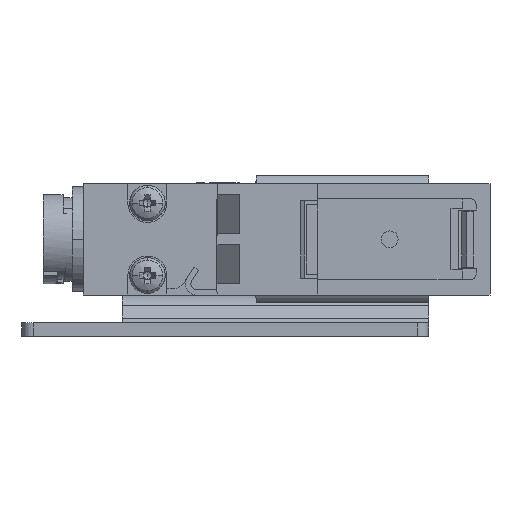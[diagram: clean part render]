
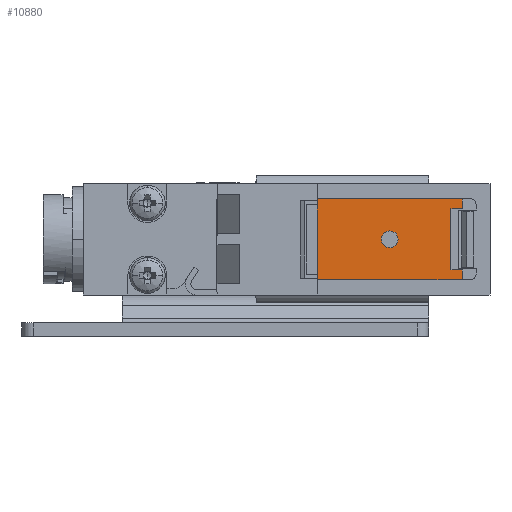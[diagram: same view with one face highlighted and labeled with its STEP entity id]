
A CAD part, left-side view. The second image highlights one B-rep face of the part: STEP entity #10880.
In plain terms, the highlighted planar face has unit normal (-1, 0, 0) as drawn and (0, 0, 1) by its records, which use the part's own axes.
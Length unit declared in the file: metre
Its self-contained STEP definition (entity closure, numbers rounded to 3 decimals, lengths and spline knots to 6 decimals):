
#20 = DIRECTION ( 'NONE',  ( 0., -1., 0. ) ) ;
#1018 = CIRCLE ( 'NONE', #4142, 0.00075 ) ;
#1143 = DIRECTION ( 'NONE',  ( 0., 1., 0. ) ) ;
#1285 = DIRECTION ( 'NONE',  ( -1., 0., 0. ) ) ;
#1386 = FACE_BOUND ( 'NONE', #17132, .T. ) ;
#1657 = CARTESIAN_POINT ( 'NONE',  ( 0., 0.0101, 0.006 ) ) ;
#2140 = CARTESIAN_POINT ( 'NONE',  ( -0.003625, 0.0166, 0.006 ) ) ;
#2413 = CARTESIAN_POINT ( 'NONE',  ( -0.00275, 0.0041, 0.006 ) ) ;
#2504 = VERTEX_POINT ( 'NONE', #6080 ) ;
#2660 = VECTOR ( 'NONE', #1143, 1. ) ;
#2680 = ORIENTED_EDGE ( 'NONE', *, *, #4165, .F. ) ;
#3036 = DIRECTION ( 'NONE',  ( 1., 0., 0. ) ) ;
#3113 = CARTESIAN_POINT ( 'NONE',  ( 0.003188, 0.0036, 0.006 ) ) ;
#3566 = VECTOR ( 'NONE', #6602, 1. ) ;
#3714 = VECTOR ( 'NONE', #15782, 1. ) ;
#3739 = PLANE ( 'NONE',  #13946 ) ;
#3769 = CIRCLE ( 'NONE', #5936, 0.00075 ) ;
#3801 = EDGE_CURVE ( 'NONE', #12351, #11717, #11948, .T. ) ;
#3903 = CARTESIAN_POINT ( 'NONE',  ( -0.00275, 0.0046, 0.006 ) ) ;
#4141 = VECTOR ( 'NONE', #20, 1. ) ;
#4142 = AXIS2_PLACEMENT_3D ( 'NONE', #1657, #11307, #3036 ) ;
#4143 = CARTESIAN_POINT ( 'NONE',  ( 0.003625, 0.0036, 0.006 ) ) ;
#4165 = EDGE_CURVE ( 'NONE', #10639, #5469, #11312, .T. ) ;
#4192 = CARTESIAN_POINT ( 'NONE',  ( 0., 0.0101, 0.006 ) ) ;
#4528 = EDGE_CURVE ( 'NONE', #5469, #7551, #13044, .T. ) ;
#4544 = CARTESIAN_POINT ( 'NONE',  ( -0.003625, 0.0036, 0.006 ) ) ;
#4800 = VERTEX_POINT ( 'NONE', #3903 ) ;
#4908 = EDGE_CURVE ( 'NONE', #7551, #11717, #15203, .T. ) ;
#5287 = CARTESIAN_POINT ( 'NONE',  ( 0.00275, 0.0041, 0.006 ) ) ;
#5306 = ORIENTED_EDGE ( 'NONE', *, *, #8342, .F. ) ;
#5469 = VERTEX_POINT ( 'NONE', #2140 ) ;
#5606 = DIRECTION ( 'NONE',  ( 1., 0., 0. ) ) ;
#5775 = ORIENTED_EDGE ( 'NONE', *, *, #16051, .T. ) ;
#5936 = AXIS2_PLACEMENT_3D ( 'NONE', #4192, #13886, #5606 ) ;
#6080 = CARTESIAN_POINT ( 'NONE',  ( 0.00275, 0.0046, 0.006 ) ) ;
#6117 = CARTESIAN_POINT ( 'NONE',  ( 0., 0.0166, 0.006 ) ) ;
#6488 = ORIENTED_EDGE ( 'NONE', *, *, #15534, .T. ) ;
#6561 = ORIENTED_EDGE ( 'NONE', *, *, #10660, .T. ) ;
#6602 = DIRECTION ( 'NONE',  ( 0., 1., 0. ) ) ;
#6788 = VERTEX_POINT ( 'NONE', #10137 ) ;
#6947 = ORIENTED_EDGE ( 'NONE', *, *, #3801, .T. ) ;
#7551 = VERTEX_POINT ( 'NONE', #16341 ) ;
#7706 = LINE ( 'NONE', #2413, #3566 ) ;
#7895 = CARTESIAN_POINT ( 'NONE',  ( -0.00275, 0.0036, 0.006 ) ) ;
#7936 = DIRECTION ( 'NONE',  ( 0., 0., -1. ) ) ;
#8164 = VECTOR ( 'NONE', #17735, 1. ) ;
#8262 = CARTESIAN_POINT ( 'NONE',  ( 0., 0.0046, 0.006 ) ) ;
#8342 = EDGE_CURVE ( 'NONE', #13644, #6788, #1018, .T. ) ;
#8597 = LINE ( 'NONE', #5287, #8164 ) ;
#8685 = DIRECTION ( 'NONE',  ( 1., 0., 0. ) ) ;
#9272 = CARTESIAN_POINT ( 'NONE',  ( 0.003625, 0.0036, 0.006 ) ) ;
#10126 = DIRECTION ( 'NONE',  ( 1., 0., 0. ) ) ;
#10137 = CARTESIAN_POINT ( 'NONE',  ( -0.00075, 0.0101, 0.006 ) ) ;
#10461 = EDGE_CURVE ( 'NONE', #2504, #4800, #17628, .T. ) ;
#10495 = EDGE_CURVE ( 'NONE', #6788, #13644, #3769, .T. ) ;
#10639 = VERTEX_POINT ( 'NONE', #4544 ) ;
#10660 = EDGE_CURVE ( 'NONE', #10639, #15411, #11760, .T. ) ;
#10880 = ADVANCED_FACE ( 'NONE', ( #1386, #14806 ), #3739, .F. ) ;
#11158 = EDGE_LOOP ( 'NONE', ( #5775, #17473, #6488, #6947, #16234, #15578, #2680, #6561 ) ) ;
#11307 = DIRECTION ( 'NONE',  ( 0., 0., 1. ) ) ;
#11312 = LINE ( 'NONE', #16340, #2660 ) ;
#11341 = VECTOR ( 'NONE', #10126, 1. ) ;
#11717 = VERTEX_POINT ( 'NONE', #4143 ) ;
#11760 = LINE ( 'NONE', #15625, #11341 ) ;
#11948 = LINE ( 'NONE', #3113, #12402 ) ;
#12351 = VERTEX_POINT ( 'NONE', #13830 ) ;
#12398 = CARTESIAN_POINT ( 'NONE',  ( 0.00075, 0.0101, 0.006 ) ) ;
#12402 = VECTOR ( 'NONE', #8685, 1. ) ;
#12501 = CARTESIAN_POINT ( 'NONE',  ( 0.003625, 0.0101, 0.006 ) ) ;
#13044 = LINE ( 'NONE', #6117, #3714 ) ;
#13644 = VERTEX_POINT ( 'NONE', #12398 ) ;
#13830 = CARTESIAN_POINT ( 'NONE',  ( 0.00275, 0.0036, 0.006 ) ) ;
#13886 = DIRECTION ( 'NONE',  ( 0., 0., 1. ) ) ;
#13946 = AXIS2_PLACEMENT_3D ( 'NONE', #9272, #7936, #17600 ) ;
#13984 = VECTOR ( 'NONE', #1285, 1. ) ;
#14806 = FACE_OUTER_BOUND ( 'NONE', #11158, .T. ) ;
#14981 = ORIENTED_EDGE ( 'NONE', *, *, #10495, .F. ) ;
#15203 = LINE ( 'NONE', #12501, #4141 ) ;
#15411 = VERTEX_POINT ( 'NONE', #7895 ) ;
#15534 = EDGE_CURVE ( 'NONE', #2504, #12351, #8597, .T. ) ;
#15578 = ORIENTED_EDGE ( 'NONE', *, *, #4528, .F. ) ;
#15625 = CARTESIAN_POINT ( 'NONE',  ( -0.003188, 0.0036, 0.006 ) ) ;
#15782 = DIRECTION ( 'NONE',  ( 1., 0., 0. ) ) ;
#16051 = EDGE_CURVE ( 'NONE', #15411, #4800, #7706, .T. ) ;
#16234 = ORIENTED_EDGE ( 'NONE', *, *, #4908, .F. ) ;
#16340 = CARTESIAN_POINT ( 'NONE',  ( -0.003625, 0.0101, 0.006 ) ) ;
#16341 = CARTESIAN_POINT ( 'NONE',  ( 0.003625, 0.0166, 0.006 ) ) ;
#17132 = EDGE_LOOP ( 'NONE', ( #5306, #14981 ) ) ;
#17473 = ORIENTED_EDGE ( 'NONE', *, *, #10461, .F. ) ;
#17600 = DIRECTION ( 'NONE',  ( -1., 0., 0. ) ) ;
#17628 = LINE ( 'NONE', #8262, #13984 ) ;
#17735 = DIRECTION ( 'NONE',  ( 0., -1., 0. ) ) ;
